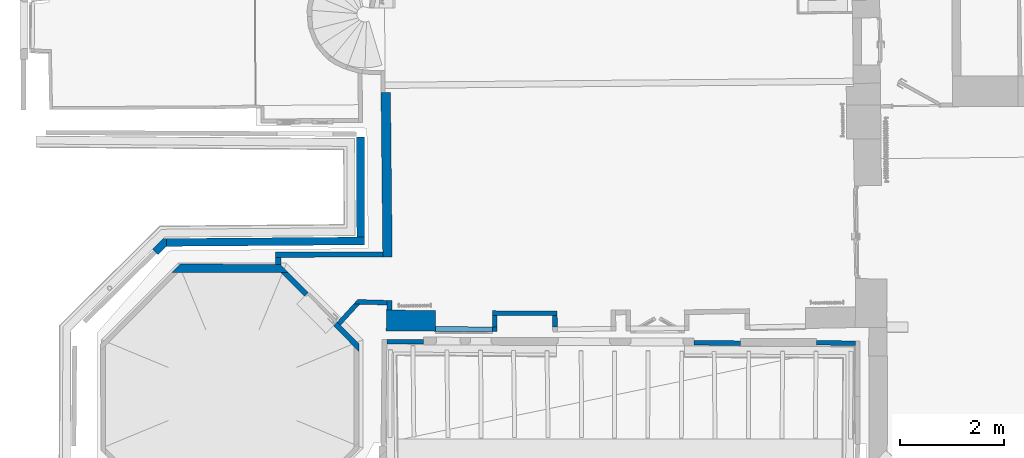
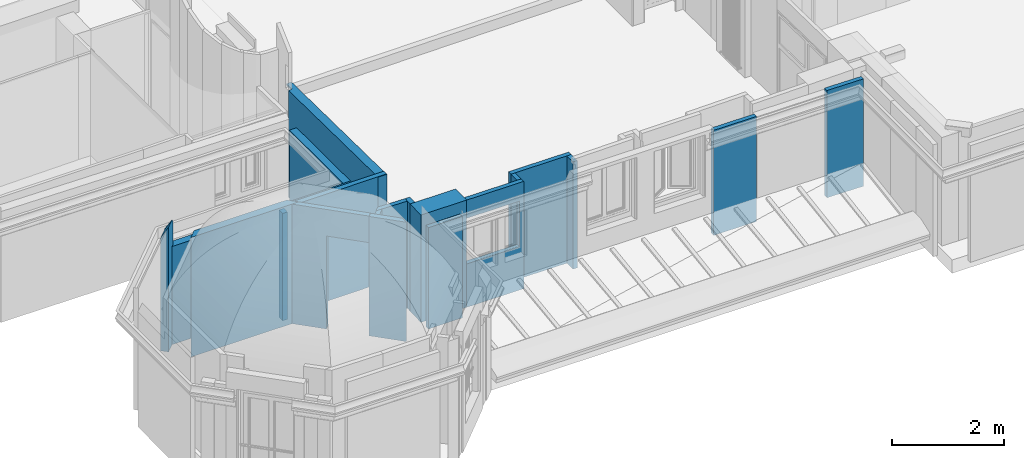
# One storey, part 6 of 72: 20 walls, 2 openings.
"""IFC2X3 building model written with IfcOpenShell, lengths in centimetres."""

from ifc_helpers import new_model, entity, si_unit, converted_unit, direction, frame, origin, origin_with_axes, origin_2d_with_axis, place, context, subcontext, project, spatial, polyline, rectangle, outline, extrude, clip, bounded_halfspace, shape, material, layer, layer_set, layer_usage, type_object, element, save


model = new_model("IFC2X3")

# Units and contexts
model_context = context("Model", 3, precision=0.0001, world=origin(), true_north=direction((0.225632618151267, 0.974212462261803, 0.0)))
body_context = subcontext(model_context, "Body", "Model", "MODEL_VIEW")
footprint_context = subcontext(model_context, "FootPrint", "Model", "MODEL_VIEW")
profile_context = subcontext(model_context, "Profile", "Model", "MODEL_VIEW")
ifc_project = project(units=[si_unit("LENGTHUNIT", "METRE", prefix="CENTI"), si_unit("AREAUNIT", "SQUARE_METRE", prefix="CENTI"), si_unit("VOLUMEUNIT", "CUBIC_METRE", prefix="CENTI"), converted_unit("PLANEANGLEUNIT", "DEGREE", entity("IfcRatioMeasure", 0.0174532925), si_unit("PLANEANGLEUNIT", "RADIAN"), dimensions=[0, 0, 0, 0, 0, 0, 0])], contexts=[model_context])

# Site, building, storey
site_placement = place(None, origin_with_axes())
site = spatial("IfcSite", under=ifc_project, at=site_placement, Name="Default Site", CompositionType="ELEMENT")
building_placement = place(site_placement, origin_with_axes())
building = spatial("IfcBuilding", under=site, at=building_placement, Name="Default Building", CompositionType="ELEMENT")
storey_placement = place(building_placement, frame((0.0, 0.0, 853.910374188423), z_axis=(0.0, 0.0, 1.0), x_axis=(1.0, 0.0, 0.0)))
storey = spatial("IfcBuildingStorey", under=building, at=storey_placement, Name="Niveau 2", CompositionType="ELEMENT", Elevation=853.910374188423)

# Walls
ifc_material = material(Name="<aucun>")
ifc_layer_1 = layer(ifc_material, 9.0)
ifc_layer_set_1 = layer_set([ifc_layer_1], Name="default")
ifc_layer_usage_1 = layer_usage(ifc_layer_set_1, "AXIS2", "POSITIVE", -4.5)
wall_type_1 = type_object("IfcWallType", Name="default 90", PredefinedType="NOTDEFINED", material=ifc_layer_set_1)
wall_1_placement = place(storey_placement, frame((-656.526669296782, -737.680926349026, -1.95399252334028e-11), z_axis=(0.0, 0.0, 1.0), x_axis=(0.99999886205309, 0.00150860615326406, 0.0)))
element("IfcWallStandardCase", 1, at=wall_1_placement, inside=storey, type_object=wall_type_1, material=ifc_layer_usage_1, Name="Enveloppe 466439", context=body_context, shape_type="SweptSolid", body=[
    extrude(outline(polyline([(0.00452157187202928, 4.49999999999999), (0.00452157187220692, -4.49999999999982), (70.2513424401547, -4.49999999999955), (70.2993048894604, 4.50000000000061), (0.00452157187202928, 4.49999999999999)])), frame((0.0, 0.0, 1.97175609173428e-11), z_axis=(0.0, 0.0, 1.0), x_axis=(1.0, 0.0, 0.0)), (0.0, 0.0, 1.0), 222.0),
])
ifc_layer_usage_2 = layer_usage(ifc_layer_set_1, "AXIS2", "POSITIVE", -4.5)
wall_2_placement = place(storey_placement, frame((-449.614922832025, -709.234524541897, 1.4210854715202e-12), z_axis=(0.0, 0.0, 1.0), x_axis=(0.00551191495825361, 0.999984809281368, 0.0)))
element("IfcWallStandardCase", 2, at=wall_2_placement, inside=storey, type_object=wall_type_1, material=ifc_layer_usage_2, Name="Enveloppe 469112", context=body_context, shape_type="SweptSolid", body=[
    extrude(rectangle(XDim=21.9999999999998, YDim=9.00000000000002, at=origin_2d_with_axis()), frame((11.0056720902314, -8.88178419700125e-14, -3.5527136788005e-13), z_axis=(0.0, 0.0, 1.0), x_axis=(1.0, -1.26339910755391e-14, 0.0)), (0.0, 0.0, 1.0), 234.999999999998),
])
ifc_layer_usage_3 = layer_usage(ifc_layer_set_1, "AXIS2", "POSITIVE", -4.5)
wall_3_placement = place(storey_placement, frame((-338.661069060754, -683.340027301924, 1.4210854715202e-12), z_axis=(0.0, 0.0, 1.0), x_axis=(-0.999984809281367, 0.00551191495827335, 0.0)))
element("IfcWallStandardCase", 3, at=wall_3_placement, inside=storey, type_object=wall_type_1, material=ifc_layer_usage_3, Name="Enveloppe 469113", context=body_context, shape_type="SweptSolid", body=[
    extrude(outline(polyline([(115.309440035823, 4.4999999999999), (-0.188008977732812, 4.4999999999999), (-9.18614743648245, 4.31695826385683), (-9.00679130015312, -4.49999999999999), (115.309440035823, -4.50000000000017), (115.309440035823, 4.4999999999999)])), frame((0.0, 0.0, -3.5527136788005e-13), z_axis=(0.0, 0.0, 1.0), x_axis=(1.0, 0.0, 0.0)), (0.0, 0.0, 1.0), 234.999999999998),
])

# Wall, opening
ifc_layer_usage_4 = layer_usage(ifc_layer_set_1, "AXIS2", "POSITIVE", -4.5)
wall_4_placement = place(storey_placement, frame((-449.639695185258, -713.728784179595, 1.4210854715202e-12), z_axis=(0.0, 0.0, 1.0), x_axis=(-0.999984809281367, 0.00551191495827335, 0.0)))
wall_4 = element("IfcWallStandardCase", 4, at=wall_4_placement, inside=storey, type_object=wall_type_1, material=ifc_layer_usage_4, Name="Enveloppe 468995", context=body_context, shape_type="SweptSolid", body=[
    extrude(rectangle(XDim=9.0000000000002, YDim=117.764109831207, at=origin_2d_with_axis()), frame((54.3820549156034, 0.0, 3.5527136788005e-13), z_axis=(0.0, 0.0, 1.0), x_axis=(9.97812943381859e-15, -1.0, 0.0)), (0.0, 0.0, 1.0), 234.999999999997),
])
opening_1_placement = place(wall_4_placement, frame((4.50000000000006, -1.13686837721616e-13, 94.9999999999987), z_axis=(0.0, 0.0, 1.0), x_axis=(-1.0, -3.55618312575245e-16, 0.0)))
cartesian_point_1 = entity("IfcCartesianPoint", [0.0, -8.88178419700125e-14, 100.0])
cartesian_point_2 = entity("IfcCartesianPoint", [-108.764109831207, -4.49999999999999])
element("IfcOpeningElement", 5, at=opening_1_placement, cuts=wall_4, Name="4294966433_11", ObjectType="Opening", shapes=[
    shape(body_context, "Body", "SweptSolid", [extrude(outline(polyline([(0.0, 100.0), (0.0, 1.77635683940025e-13), (108.764109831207, 1.77635683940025e-13), (108.764109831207, 100.0), (0.0, 100.0)])), frame((0.0, -14.5, 0.0), z_axis=(0.0, 1.0, 0.0), x_axis=(-1.0, 0.0, 0.0)), (0.0, 0.0, 1.0), 29.0)]),
    shape(profile_context, "Profile", "GeometricCurveSet", [entity("IfcGeometricCurveSet", [entity("IfcPolyline", [cartesian_point_1, entity("IfcCartesianPoint", [0.0, -8.88178419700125e-14, 1.77635683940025e-13]), entity("IfcCartesianPoint", [-108.764109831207, 0.0, 1.77635683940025e-13]), entity("IfcCartesianPoint", [-108.764109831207, 0.0, 100.0]), cartesian_point_1])])]),
    shape(footprint_context, "FootPrint", "GeometricCurveSet", [entity("IfcGeometricCurveSet", [entity("IfcPolyline", [cartesian_point_2, entity("IfcCartesianPoint", [0.0, -4.50000000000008]), entity("IfcCartesianPoint", [8.88178419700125e-14, 4.49999999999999]), entity("IfcCartesianPoint", [-108.764109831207, 4.49999999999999]), cartesian_point_2])])]),
])

# Walls
ifc_layer_usage_5 = layer_usage(ifc_layer_set_1, "AXIS2", "POSITIVE", -4.5)
wall_5_placement = place(storey_placement, frame((-333.53991499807, -718.690799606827, -1.95399252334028e-11), z_axis=(0.0, 0.0, 1.0), x_axis=(-0.0148268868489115, 0.999890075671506, 0.0)))
element("IfcWallStandardCase", 6, at=wall_5_placement, inside=storey, type_object=wall_type_1, material=ifc_layer_usage_5, Name="Enveloppe 468325", context=body_context, shape_type="SweptSolid", body=[
    extrude(rectangle(XDim=8.99999999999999, YDim=21.919924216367, at=origin_2d_with_axis()), frame((19.9599621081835, 0.0, 1.98951966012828e-11), z_axis=(0.0, 0.0, 1.0), x_axis=(-9.86710713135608e-15, -1.0, 0.0)), (0.0, 0.0, 1.0), 234.999999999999),
])
ifc_layer_usage_6 = layer_usage(ifc_layer_set_1, "AXIS2", "POSITIVE", -4.5)
wall_6_placement = place(storey_placement, frame((242.57746022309, -740.788454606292, 1.4210854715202e-12), z_axis=(0.0, 0.0, 1.0), x_axis=(-0.999846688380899, 0.0175099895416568, 0.0)))
element("IfcWallStandardCase", 7, at=wall_6_placement, inside=storey, type_object=wall_type_1, material=ifc_layer_usage_6, Name="Enveloppe 749635", context=body_context, shape_type="SweptSolid", body=[
    extrude(outline(polyline([(74.7959158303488, 4.50000000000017), (-0.121844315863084, 4.49999999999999), (0.00352909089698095, -4.4999999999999), (74.7959158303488, -4.49999999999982), (74.7959158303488, 4.50000000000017)])), frame((0.0, 0.0, -7.105427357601e-13), z_axis=(0.0, 0.0, 1.0), x_axis=(1.0, 0.0, 0.0)), (0.0, 0.0, 1.0), 234.999999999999),
])
ifc_layer_usage_7 = layer_usage(ifc_layer_set_1, "AXIS2", "POSITIVE", -4.5)
wall_7_placement = place(storey_placement, frame((21.9022320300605, -740.405088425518, 1.4210854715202e-12), z_axis=(0.0, 0.0, 1.0), x_axis=(-0.999971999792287, 0.00748329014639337, 0.0)))
element("IfcWallStandardCase", 8, at=wall_7_placement, inside=storey, type_object=wall_type_1, material=ifc_layer_usage_7, Name="Enveloppe 748666", context=body_context, shape_type="SweptSolid", body=[
    extrude(outline(polyline([(88.8165094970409, 4.50000000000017), (-0.000129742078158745, 4.50000000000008), (0.0328361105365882, -4.49999999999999), (88.8165094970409, -4.49999999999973), (88.8165094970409, 4.50000000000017)])), origin_with_axes(), (0.0, 0.0, 1.0), 230.0),
])
ifc_layer_usage_8 = layer_usage(ifc_layer_set_1, "AXIS2", "POSITIVE", -4.5)
wall_8_placement = place(storey_placement, frame((-656.358676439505, -662.77021742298, 1.4210854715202e-12), z_axis=(0.0, 0.0, 1.0), x_axis=(-0.999582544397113, 0.0288918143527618, 0.0)))
element("IfcWallStandardCase", 9, at=wall_8_placement, inside=storey, type_object=wall_type_1, material=ifc_layer_usage_8, Name="Enveloppe 159047", context=body_context, shape_type="SweptSolid", body=[
    extrude(outline(polyline([(63.8802909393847, 4.50000000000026), (-0.024237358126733, 4.4999999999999), (0.000326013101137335, -4.50000000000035), (56.1114220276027, -4.49999999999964), (63.8802909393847, 4.50000000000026)])), frame((0.0, 0.0, 7.105427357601e-13), z_axis=(0.0, 0.0, 1.0), x_axis=(1.0, 0.0, 0.0)), (0.0, 0.0, 1.0), 234.999999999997),
])
ifc_layer_usage_9 = layer_usage(ifc_layer_set_1, "AXIS2", "POSITIVE", -4.5)
wall_9_placement = place(storey_placement, frame((-748.347100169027, -702.69742804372, 1.4210854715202e-12), z_axis=(0.0, 0.0, 1.0), x_axis=(0.675031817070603, 0.737788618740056, 0.0)))
element("IfcWallStandardCase", 10, at=wall_9_placement, inside=storey, type_object=wall_type_1, material=ifc_layer_usage_9, Name="Enveloppe 159068", context=body_context, shape_type="SweptSolid", body=[
    extrude(outline(polyline([(-3.5527136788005e-13, 4.50000000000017), (-0.427701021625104, -4.4999999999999), (54.1738453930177, -4.49999999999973), (46.4049764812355, 4.50000000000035), (-3.5527136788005e-13, 4.50000000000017)])), frame((0.0, 0.0, -1.77635683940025e-13), z_axis=(0.0, 0.0, 1.0), x_axis=(1.0, 0.0, 0.0)), (0.0, 0.0, 1.0), 234.999999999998),
])
ifc_layer_2 = layer(ifc_material, 10.0)
ifc_layer_set_2 = layer_set([ifc_layer_2], Name="default")
ifc_layer_usage_10 = layer_usage(ifc_layer_set_2, "AXIS2", "POSITIVE", -5.0)
wall_type_2 = type_object("IfcWallType", Name="default 100", PredefinedType="NOTDEFINED", material=ifc_layer_set_2)
wall_10_placement = place(storey_placement, frame((-652.764492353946, -717.005961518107, 1.4210854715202e-12), z_axis=(0.0, 0.0, 1.0), x_axis=(0.0261635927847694, 0.999657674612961, 0.0)))
element("IfcWallStandardCase", 11, at=wall_10_placement, inside=storey, type_object=wall_type_2, material=ifc_layer_usage_10, Name="Enveloppe 158985", context=body_context, shape_type="SweptSolid", body=[
    extrude(outline(polyline([(39.8019580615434, 4.99999999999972), (40.0085337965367, -5.00000000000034), (58.5958325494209, -5.00000000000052), (58.6231251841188, 4.99999999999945), (39.8019580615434, 4.99999999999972)])), origin_with_axes(), (0.0, 0.0, 1.0), 234.999999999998),
])
ifc_layer_usage_11 = layer_usage(ifc_layer_set_2, "AXIS2", "POSITIVE", -5.0)
wall_11_placement = place(storey_placement, frame((-859.696007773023, -570.792009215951, 1.4210854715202e-12), z_axis=(0.0, 0.0, 1.0), x_axis=(0.99999401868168, 0.00345869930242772, 0.0)))
element("IfcWallStandardCase", 12, at=wall_11_placement, inside=storey, type_object=wall_type_2, material=ifc_layer_usage_11, Name="Enveloppe 158968", context=body_context, shape_type="Clipping", body=[
    clip(clip(extrude(outline(polyline([(-10.137784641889, -5.00000000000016), (213.495059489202, -4.9999999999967), (213.495059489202, 5.00000000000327), (-10.0014075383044, 4.99999999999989), (-10.137784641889, -5.00000000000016)])), frame((0.0, 0.0, -5.32907051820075e-13), z_axis=(0.0, 0.0, 1.0), x_axis=(1.0, 0.0, 0.0)), (0.0, 0.0, 1.0), 234.999999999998), bounded_halfspace(frame((195.420494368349, 5.000000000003, 234.007564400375), z_axis=(0.0, 0.0, 1.0), x_axis=(1.0, 1.65193379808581e-14, 0.0)), True, frame((195.420494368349, 5.000000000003, 234.007564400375), z_axis=(0.0, 0.0, 1.0), x_axis=(1.0, 0.0, 0.0)), polyline([(8.88178419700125e-14, 0.0), (18.0004937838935, 2.66453525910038e-13), (18.0745651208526, -9.9999999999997), (0.0740713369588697, -10.0000000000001), (8.88178419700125e-14, 0.0)]))), bounded_halfspace(frame((213.495059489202, -4.9999999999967, 234.007564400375), z_axis=(0.0, 0.0, 1.0), x_axis=(-0.00740693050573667, 0.999972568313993, 0.0)), True, frame((213.495059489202, -4.9999999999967, 234.007564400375), z_axis=(0.0, 0.0, 1.0), x_axis=(1.0, 0.0, 0.0)), polyline([(-0.0740713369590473, 9.99999999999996), (-2.66453525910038e-13, 9.99999999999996), (8.88178419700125e-14, 0.0), (-0.0740713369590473, 9.99999999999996)]))),
])
ifc_layer_usage_12 = layer_usage(ifc_layer_set_2, "AXIS2", "POSITIVE", -5.0)
wall_12_placement = place(storey_placement, frame((-864.966913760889, -590.636133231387, 1.4210854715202e-12), z_axis=(0.0, 0.0, 1.0), x_axis=(0.0101779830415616, 0.999948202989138, 0.0)))
element("IfcWallStandardCase", 13, at=wall_12_placement, inside=storey, type_object=wall_type_2, material=ifc_layer_usage_12, Name="Enveloppe 159096", context=body_context, shape_type="SweptSolid", body=[
    extrude(outline(polyline([(1.52112820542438, 5.00000000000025), (1.61680962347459, -4.99999999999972), (14.8953420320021, -5.00000000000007), (14.7589649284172, 4.99999999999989), (1.52112820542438, 5.00000000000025)])), frame((0.0, 0.0, 3.5527136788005e-13), z_axis=(0.0, 0.0, 1.0), x_axis=(1.0, 0.0, 0.0)), (0.0, 0.0, 1.0), 234.999999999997),
])

# Wall, opening
ifc_layer_usage_13 = layer_usage(ifc_layer_set_2, "AXIS2", "POSITIVE", -5.0)
wall_13_placement = place(storey_placement, frame((-755.213612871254, -703.184354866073, 1.4210854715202e-12), z_axis=(0.0, 0.0, 1.0), x_axis=(-0.70491399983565, 0.709292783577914, 0.0)))
wall_13 = element("IfcWallStandardCase", 14, at=wall_13_placement, inside=storey, type_object=wall_type_2, material=ifc_layer_usage_13, Name="Enveloppe 159127", context=body_context, shape_type="SweptSolid", body=[
    extrude(outline(polyline([(143.295571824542, 4.99999999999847), (-1.02140518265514e-11, 4.99999999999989), (-1.03028696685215e-11, -5.00000000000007), (133.345167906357, -5.00000000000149), (143.295571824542, 4.99999999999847)])), frame((0.0, 0.0, -5.32907051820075e-13), z_axis=(0.0, 0.0, 1.0), x_axis=(1.0, 0.0, 0.0)), (0.0, 0.0, 1.0), 261.845587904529),
])
opening_2_placement = place(wall_13_placement, frame((-2.61479726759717e-12, -2.27373675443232e-13, -1.77635683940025e-15), z_axis=(0.0, 0.0, 1.0), x_axis=(-1.0, 1.06581410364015e-14, 0.0)))
cartesian_point_3 = entity("IfcCartesianPoint", [-8.88178419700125e-14, 0.0, 203.7])
cartesian_point_4 = entity("IfcCartesianPoint", [-79.2665734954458, -4.99999999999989])
element("IfcOpeningElement", 15, at=opening_2_placement, cuts=wall_13, Name="4294966379_11", ObjectType="Opening", shapes=[
    shape(body_context, "Body", "SweptSolid", [extrude(outline(polyline([(0.0, 203.7), (0.0, 0.0), (79.2665734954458, 0.0), (79.2665734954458, 203.7), (0.0, 203.7)])), frame((0.0, -15.0, 0.0), z_axis=(0.0, 1.0, 0.0), x_axis=(-1.0, 0.0, 0.0)), (0.0, 0.0, 1.0), 30.0)]),
    shape(profile_context, "Profile", "GeometricCurveSet", [entity("IfcGeometricCurveSet", [entity("IfcPolyline", [cartesian_point_3, entity("IfcCartesianPoint", [-8.88178419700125e-14, 0.0, 0.0]), entity("IfcCartesianPoint", [-79.2665734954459, 0.0, 0.0]), entity("IfcCartesianPoint", [-79.2665734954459, 0.0, 203.7]), cartesian_point_3])])]),
    shape(footprint_context, "FootPrint", "GeometricCurveSet", [entity("IfcGeometricCurveSet", [entity("IfcPolyline", [cartesian_point_4, entity("IfcCartesianPoint", [0.0, -4.99999999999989]), entity("IfcCartesianPoint", [-8.88178419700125e-14, 5.00000000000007]), entity("IfcCartesianPoint", [-79.2665734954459, 5.00000000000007]), cartesian_point_4])])]),
])

# Walls
ifc_layer_3 = layer(ifc_material, 15.0)
ifc_layer_set_3 = layer_set([ifc_layer_3], Name="default")
ifc_layer_usage_14 = layer_usage(ifc_layer_set_3, "AXIS2", "POSITIVE", -7.5)
wall_type_3 = type_object("IfcWallType", Name="default 150", PredefinedType="NOTDEFINED", material=ifc_layer_set_3)
wall_14_placement = place(storey_placement, frame((-1084.72287317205, -547.229782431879, 1.4210854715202e-12), z_axis=(0.0, 0.0, 1.0), x_axis=(0.999970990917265, 0.00761691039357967, 0.0)))
element("IfcWallStandardCase", 16, at=wall_14_placement, inside=storey, type_object=wall_type_3, material=ifc_layer_usage_14, Name="Enveloppe 471093", context=body_context, shape_type="SweptSolid", body=[
    extrude(outline(polyline([(5.51879093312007, 7.50000000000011), (5.51879093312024, -7.50000000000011), (385.529173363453, -7.49999999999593), (385.603395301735, 7.50000000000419), (5.51879093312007, 7.50000000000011)])), frame((0.0, 0.0, -1.77635683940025e-13), z_axis=(0.0, 0.0, 1.0), x_axis=(1.0, 0.0, 0.0)), (0.0, 0.0, 1.0), 214.999999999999),
])
ifc_layer_usage_15 = layer_usage(ifc_layer_set_3, "AXIS2", "POSITIVE", -7.5)
wall_15_placement = place(storey_placement, frame((-1100.92940272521, -565.87571398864, 1.4210854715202e-12), z_axis=(0.0, 0.0, 1.0), x_axis=(0.706838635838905, 0.707374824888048, 0.0)))
solid = clip(clip(clip(clip(clip(clip(clip(clip(extrude(outline(polyline([(0.0, 7.49999999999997), (3.5527136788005e-13, -7.50000000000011), (29.9137524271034, -7.4999999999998), (29.9137524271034, -0.800769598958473), (33.840358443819, 3.18309212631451), (29.9137524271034, 7.05326530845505), (29.9137524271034, 7.50000000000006), (0.0, 7.49999999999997)])), frame((0.0, 0.0, -1.06581410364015e-12), z_axis=(0.0, 0.0, 1.0), x_axis=(1.0, 0.0, 0.0)), (0.0, 0.0, 1.0), 274.191988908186), bounded_halfspace(frame((29.9137524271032, 7.05326530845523, 214.999999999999), z_axis=(0.0, 0.0, 1.0), x_axis=(-0.712206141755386, 0.701970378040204, 0.0)), True, frame((29.9137524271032, 7.05326530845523, 214.999999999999), z_axis=(0.0, 0.0, 1.0), x_axis=(1.0, 0.0, 0.0)), polyline([(-0.0110033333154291, 0.0108451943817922), (0.0, 0.0364041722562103), (-1.77635683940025e-13, 8.88178419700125e-14), (-0.0110033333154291, 0.0108451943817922)]))), bounded_halfspace(frame((29.9137524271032, -7.49999999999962, 214.999999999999), z_axis=(0.0, 0.0, 1.0), x_axis=(-1.0, -1.50435219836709e-14, 0.0)), True, frame((29.9137524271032, -7.49999999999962, 214.999999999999), z_axis=(0.0, 0.0, 1.0), x_axis=(1.0, 0.0, 0.0)), polyline([(-6.28096307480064, -1.33226762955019e-13), (-6.03125575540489, 0.580030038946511), (0.0, 6.69923040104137), (0.0, 4.44089209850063e-14), (-6.28096307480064, -1.33226762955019e-13)]))), bounded_halfspace(frame((29.9137524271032, 7.50000000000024, 214.999999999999), z_axis=(0.0, 0.0, 1.0), x_axis=(-7.93809462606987e-15, -1.0, 0.0)), True, frame((29.9137524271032, 7.50000000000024, 214.999999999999), z_axis=(0.0, 0.0, 1.0), x_axis=(1.0, 0.0, 0.0)), polyline([(-0.453248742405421, 8.88178419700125e-14), (0.0, 0.0), (0.0, -0.410330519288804), (-0.0110033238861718, -0.435889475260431), (-0.453248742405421, 8.88178419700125e-14)]))), bounded_halfspace(frame((23.882266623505, -6.92050432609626, 214.999999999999), z_axis=(0.0, 0.0, 1.0), x_axis=(-0.395421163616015, -0.918499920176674, 0.0)), True, frame((23.882266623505, -6.92050432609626, 214.999999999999), z_axis=(0.0, 0.0, 1.0), x_axis=(1.0, 0.0, 0.0)), polyline([(-0.571463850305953, -0.579495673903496), (0.0, 0.0), (-0.249477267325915, -0.579495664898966), (-0.571463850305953, -0.579495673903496)]))), bounded_halfspace(frame((1.77635683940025e-13, -7.49999999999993, 273.792189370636), z_axis=(-0.00645707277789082, -0.875652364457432, -0.482898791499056), x_axis=(0.999910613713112, 8.04911692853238e-15, -0.0133702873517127)), True, frame((1.77635683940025e-13, -7.49999999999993, 273.792189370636), z_axis=(0.0, 0.0, 1.0), x_axis=(1.0, 0.0, 0.0)), polyline([(0.0, 0.0), (23.0682295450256, 8.88178419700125e-14), (28.6689231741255, 15.0000000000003), (-3.5527136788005e-13, 15.0000000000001), (0.0, 0.0)]))), bounded_halfspace(frame((29.9137524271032, -0.800769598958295, 256.992406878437), z_axis=(-0.615746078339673, -0.619824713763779, -0.486491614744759), x_axis=(-5.32907051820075e-15, -0.617418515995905, 0.786634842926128)), True, frame((29.9137524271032, -0.800769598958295, 256.992406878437), z_axis=(0.0, 0.0, 1.0), x_axis=(1.0, 0.0, 0.0)), polyline([(0.0, 4.44089209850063e-14), (3.92660601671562, 3.98386172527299), (-1.77635683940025e-13, 7.85403490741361), (0.0, 4.44089209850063e-14)]))), bounded_halfspace(frame((23.0682295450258, -7.49999999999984, 274.191988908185), z_axis=(-0.615746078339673, -0.619824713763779, -0.486491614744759), x_axis=(0.203079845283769, 0.471721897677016, -0.858042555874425)), True, frame((23.0682295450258, -7.49999999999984, 274.191988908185), z_axis=(0.0, 0.0, 1.0), x_axis=(1.0, 0.0, 0.0)), polyline([(0.0, 0.0), (0.242573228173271, 8.88178419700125e-14), (0.814267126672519, 0.580030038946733), (6.8345195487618, 14.5641105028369), (6.39227413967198, 15.0000000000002), (5.60069362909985, 15.0000000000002), (0.0, 0.0)]))), bounded_halfspace(frame((23.8824966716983, -6.91996996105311, 272.422382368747), z_axis=(-0.615746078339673, -0.619824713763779, -0.486491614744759), x_axis=(-0.712188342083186, 0.701952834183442, 0.00706993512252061)), True, frame((23.8824966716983, -6.91996996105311, 272.422382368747), z_axis=(0.0, 0.0, 1.0), x_axis=(1.0, 0.0, 0.0)), polyline([(0.0, 0.0), (6.03125575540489, 6.11920036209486), (6.03125575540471, 13.9732352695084), (6.02025242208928, 13.9840804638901), (0.0, 0.0)])))
element("IfcWallStandardCase", 17, at=wall_15_placement, inside=storey, type_object=wall_type_3, material=ifc_layer_usage_15, Name="Enveloppe 470975", context=body_context, shape_type="Clipping", body=[
    clip(clip(clip(clip(solid, bounded_halfspace(frame((29.9027490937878, 7.06411050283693, 246.985920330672), z_axis=(-0.615746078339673, -0.619824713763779, -0.486491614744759), x_axis=(-0.203079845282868, -0.471721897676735, 0.858042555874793)), True, frame((29.9027490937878, 7.06411050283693, 246.985920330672), z_axis=(0.0, 0.0, 1.0), x_axis=(1.0, 0.0, 0.0)), polyline([(0.0, 8.88178419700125e-14), (0.0110033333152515, -0.0108451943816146), (0.0110033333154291, 0.0255589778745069), (0.0, 8.88178419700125e-14)]))), bounded_halfspace(frame((23.6327893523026, -7.49999999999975, 273.477432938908), z_axis=(-0.615746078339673, -0.619824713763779, -0.486491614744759), x_axis=(-0.341504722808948, -0.346484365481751, 0.873683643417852)), True, frame((23.6327893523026, -7.49999999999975, 273.477432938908), z_axis=(0.0, 0.0, 1.0), x_axis=(1.0, 0.0, 0.0)), polyline([(0.0, 0.0), (6.28096307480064, 1.77635683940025e-13), (6.28096307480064, 6.6992304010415), (0.249707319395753, 0.580030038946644), (0.0, 0.0)]))), bounded_halfspace(frame((29.902749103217, 7.06411052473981, 246.982882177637), z_axis=(-0.00645707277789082, -0.875652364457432, -0.482898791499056), x_axis=(0.442021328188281, -0.435668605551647, 0.784098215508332)), True, frame((29.902749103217, 7.06411052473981, 246.982882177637), z_axis=(0.0, 0.0, 1.0), x_axis=(1.0, 0.0, 0.0)), polyline([(-0.442245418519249, 0.43588947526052), (0.0, 0.0), (0.0110033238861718, 0.0255589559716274), (0.0110033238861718, 0.435889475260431), (-0.442245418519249, 0.43588947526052)]))), bounded_halfspace(frame((23.3108027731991, -7.4999999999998, 273.480489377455), z_axis=(-0.00645707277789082, -0.875652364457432, -0.482898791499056), x_axis=(-0.427823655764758, -0.434061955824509, 0.792815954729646)), True, frame((23.3108027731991, -7.4999999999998, 273.480489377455), z_axis=(0.0, 0.0, 1.0), x_axis=(1.0, 0.0, 0.0)), polyline([(0.0, 4.44089209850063e-14), (0.321986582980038, 9.00457486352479e-09), (0.571693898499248, 0.580030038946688), (0.0, 4.44089209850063e-14)]))),
])
ifc_layer_usage_16 = layer_usage(ifc_layer_set_3, "AXIS2", "POSITIVE", -7.5)
wall_16_placement = place(storey_placement, frame((-706.687566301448, -536.886980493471, 1.4210854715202e-12), z_axis=(0.0, 0.0, 1.0), x_axis=(-0.00266889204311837, 0.999996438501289, 0.0)))
element("IfcWallStandardCase", 18, at=wall_16_placement, inside=storey, type_object=wall_type_3, material=ifc_layer_usage_16, Name="Enveloppe 748512", context=body_context, shape_type="SweptSolid", body=[
    extrude(outline(polyline([(192.351112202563, 7.50000000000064), (-0.000151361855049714, 7.50000000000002), (0.0740705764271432, -7.50000000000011), (192.351112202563, -7.4999999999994), (192.351112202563, 7.50000000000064)])), origin_with_axes(), (0.0, 0.0, 1.0), 214.999999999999),
])
ifc_layer_4 = layer(ifc_material, 40.0)
ifc_layer_set_4 = layer_set([ifc_layer_4], Name="default")
ifc_layer_usage_17 = layer_usage(ifc_layer_set_4, "AXIS2", "POSITIVE", -20.0)
wall_type_4 = type_object("IfcWallType", Name="default 400", PredefinedType="NOTDEFINED", material=ifc_layer_set_4)
wall_17_placement = place(storey_placement, frame((-562.816649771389, -697.604717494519, 1.4210854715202e-12), z_axis=(0.0, 0.0, 1.0), x_axis=(-0.999984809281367, 0.00551191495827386, 0.0)))
element("IfcWallStandardCase", 19, at=wall_17_placement, inside=storey, type_object=wall_type_4, material=ifc_layer_usage_17, Name="Enveloppe 158818", context=body_context, shape_type="SweptSolid", body=[
    extrude(outline(polyline([(94.8427381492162, 19.9999999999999), (-8.88178419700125e-14, 19.9999999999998), (-8.88178419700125e-14, -20.0), (94.0164352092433, -19.9999999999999), (94.8427381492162, 19.9999999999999)])), frame((0.0, 0.0, 3.5527136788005e-13), z_axis=(0.0, 0.0, 1.0), x_axis=(1.0, 0.0, 0.0)), (0.0, 0.0, 1.0), 234.999999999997),
])
ifc_layer_5 = layer(ifc_material, 18.0)
ifc_layer_set_5 = layer_set([ifc_layer_5], Name="default")
ifc_layer_usage_18 = layer_usage(ifc_layer_set_5, "AXIS2", "POSITIVE", -9.0)
wall_type_5 = type_object("IfcWallType", Name="default 180", PredefinedType="NOTDEFINED", material=ifc_layer_set_5)
wall_18_placement = place(storey_placement, frame((-655.174866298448, -576.028776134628, 1.4210854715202e-12), z_axis=(0.0, 0.0, 1.0), x_axis=(-0.0108654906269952, 0.999940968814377, 0.0)))
element("IfcWallStandardCase", 20, at=wall_18_placement, inside=storey, type_object=wall_type_5, material=ifc_layer_usage_18, Name="Enveloppe 158794", context=body_context, shape_type="Clipping", body=[
    clip(clip(clip(extrude(outline(polyline([(316.767164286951, 9.00000000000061), (1.01080282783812, 8.99999999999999), (0.87747442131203, -8.99999999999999), (336.424228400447, -8.99999999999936), (336.447298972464, 1.15032651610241), (316.704146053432, 1.3120622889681), (316.767164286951, 9.00000000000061)])), frame((0.0, 0.0, -1.77635683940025e-13), z_axis=(0.0, 0.0, 1.0), x_axis=(1.0, 0.0, 0.0)), (0.0, 0.0, 1.0), 234.007564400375), bounded_halfspace(frame((316.704147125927, 1.31216098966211, 230.0), z_axis=(0.0, 0.0, 1.0), x_axis=(0.999966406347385, -0.00819671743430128, 0.0)), True, frame((316.704147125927, 1.31216098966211, 230.0), z_axis=(0.0, 0.0, 1.0), x_axis=(1.0, 0.0, 0.0)), polyline([(0.0, -10.3121609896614), (4.44089209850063e-14, 8.88178419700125e-14), (9.74331232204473, -0.0798658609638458), (9.72005544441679, -10.3121609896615), (0.0, -10.3121609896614)]))), bounded_halfspace(frame((336.424228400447, -8.99999999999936, 230.0), z_axis=(0.0, 0.0, 1.0), x_axis=(-1.0, 3.23005511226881e-15, 0.0)), True, frame((336.424228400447, -8.99999999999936, 230.0), z_axis=(0.0, 0.0, 1.0), x_axis=(1.0, 0.0, 0.0)), polyline([(-10.0000258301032, 0.0), (-9.97676895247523, 10.2322951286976), (0.0230705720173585, 10.1503265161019), (4.44089209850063e-14, 0.0), (-10.0000258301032, 0.0)]))), bounded_halfspace(frame((316.767164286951, 9.00000000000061, 230.0), z_axis=(0.0, 0.0, -1.0), x_axis=(-1.0, -2.29436261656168e-13, 0.0)), True, frame((316.767164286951, 9.00000000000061, 230.0), z_axis=(0.0, 0.0, 1.0), x_axis=(1.0, 0.0, 0.0)), polyline([(-0.0999999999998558, -7.68753586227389), (-0.0630171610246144, -7.6878390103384), (8.88178419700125e-14, 0.0), (-0.100000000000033, 1.77635683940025e-13), (-0.0999999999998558, -7.68753586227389)]))),
])
ifc_layer_6 = layer(ifc_material, 16.0)
ifc_layer_set_6 = layer_set([ifc_layer_6], Name="default")
ifc_layer_usage_19 = layer_usage(ifc_layer_set_6, "AXIS2", "POSITIVE", -8.0)
wall_type_6 = type_object("IfcWallType", Name="default 160", PredefinedType="NOTDEFINED", material=ifc_layer_set_6)
wall_19_placement = place(storey_placement, frame((-859.766249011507, -597.07041134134, 1.4210854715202e-12), z_axis=(0.0, 0.0, 1.0), x_axis=(-0.999999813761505, 0.000610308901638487, 0.0)))
element("IfcWallStandardCase", 21, at=wall_19_placement, inside=storey, type_object=wall_type_6, material=ifc_layer_usage_19, Name="Enveloppe 159225", context=body_context, shape_type="Clipping", body=[
    clip(extrude(outline(polyline([(209.580136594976, 8.00000000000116), (-14.1071094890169, 7.99999999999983), (0.204819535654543, -6.38326438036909), (0.189350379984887, -8.0000000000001), (193.667655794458, -7.99999999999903), (209.580136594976, 8.00000000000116)])), frame((0.0, 0.0, -7.105427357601e-13), z_axis=(0.0, 0.0, 1.0), x_axis=(1.0, 0.0, 0.0)), (0.0, 0.0, 1.0), 261.845587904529), bounded_halfspace(frame((0.189350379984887, -8.0000000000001, 234.999999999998), z_axis=(0.0, 0.0, -1.0), x_axis=(1.0, 9.19499936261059e-14, 0.0)), True, frame((0.189350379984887, -8.0000000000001, 234.999999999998), z_axis=(0.0, 0.0, 1.0), x_axis=(1.0, 0.0, 0.0)), polyline([(0.0, 8.88178419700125e-14), (1.62418640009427, 8.88178419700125e-14), (0.0154691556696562, 1.61673561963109), (0.0, 8.88178419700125e-14)]))),
])
ifc_layer_7 = layer(ifc_material, 10.5)
ifc_layer_set_7 = layer_set([ifc_layer_7], Name="default")
ifc_layer_usage_20 = layer_usage(ifc_layer_set_7, "AXIS2", "POSITIVE", -5.25)
wall_type_7 = type_object("IfcWallType", Name="default 105", PredefinedType="NOTDEFINED", material=ifc_layer_set_7)
wall_20_placement = place(storey_placement, frame((-713.739846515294, -745.270401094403, 1.4210854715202e-12), z_axis=(0.0, 0.0, 1.0), x_axis=(-0.704913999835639, 0.709292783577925, 0.0)))
element("IfcWallStandardCase", 22, at=wall_20_placement, inside=storey, type_object=wall_type_7, material=ifc_layer_usage_20, Name="Enveloppe 159163", context=body_context, shape_type="SweptSolid", body=[
    extrude(outline(polyline([(59.0867674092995, 5.2500000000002), (-10.4047005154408, 5.24999999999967), (0.148956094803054, -5.25000000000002), (59.0867674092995, -5.24999999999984), (59.0867674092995, 5.2500000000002)])), frame((0.0, 0.0, -5.32907051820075e-13), z_axis=(0.0, 0.0, 1.0), x_axis=(1.0, 0.0, 0.0)), (0.0, 0.0, 1.0), 261.397660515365),
])

save(model, "model.ifc")
